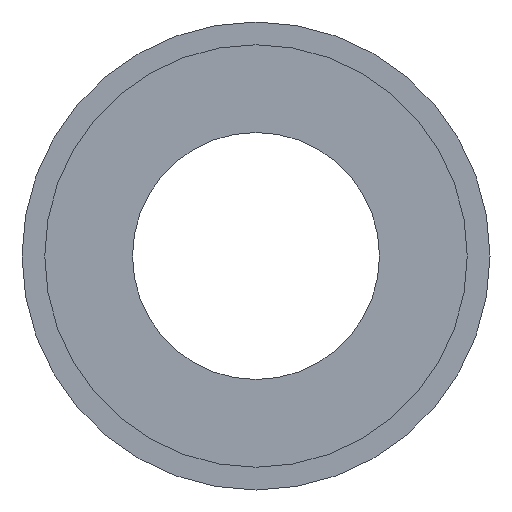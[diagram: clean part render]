
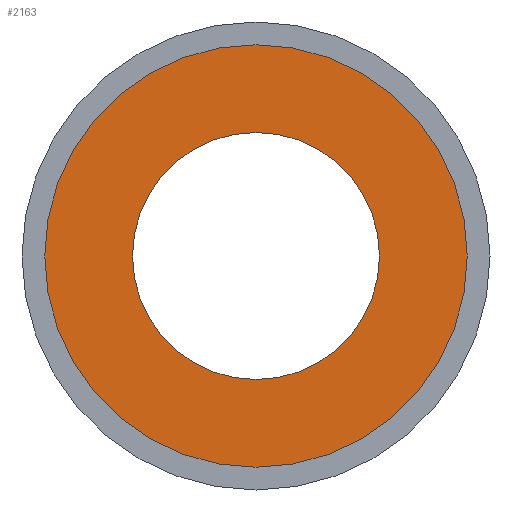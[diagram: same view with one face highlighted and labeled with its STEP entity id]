
A CAD part, front view. The second image highlights one B-rep face of the part: STEP entity #2163.
In plain terms, the highlighted planar face has unit normal (0, -1, 0).
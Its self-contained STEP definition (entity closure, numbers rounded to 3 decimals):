
#23 = CIRCLE ( 'NONE', #1369, 32.5 ) ;
#35 = ORIENTED_EDGE ( 'NONE', *, *, #2455, .T. ) ;
#69 = CARTESIAN_POINT ( 'NONE',  ( 0., -15., 0. ) ) ;
#96 = CARTESIAN_POINT ( 'NONE',  ( 0., -15., 0. ) ) ;
#134 = ORIENTED_EDGE ( 'NONE', *, *, #860, .T. ) ;
#282 = VERTEX_POINT ( 'NONE', #2083 ) ;
#469 = DIRECTION ( 'NONE',  ( 0., -1., 0. ) ) ;
#616 = AXIS2_PLACEMENT_3D ( 'NONE', #96, #1434, #647 ) ;
#633 = EDGE_CURVE ( 'NONE', #1029, #1094, #852, .T. ) ;
#647 = DIRECTION ( 'NONE',  ( 0., 0., -1. ) ) ;
#750 = CARTESIAN_POINT ( 'NONE',  ( 0., -15., 0. ) ) ;
#755 = AXIS2_PLACEMENT_3D ( 'NONE', #69, #469, #1010 ) ;
#852 = CIRCLE ( 'NONE', #1287, 19. ) ;
#860 = EDGE_CURVE ( 'NONE', #282, #1685, #23, .T. ) ;
#940 = DIRECTION ( 'NONE',  ( 0., 0., -1. ) ) ;
#1010 = DIRECTION ( 'NONE',  ( 0., 0., -1. ) ) ;
#1029 = VERTEX_POINT ( 'NONE', #2054 ) ;
#1094 = VERTEX_POINT ( 'NONE', #1751 ) ;
#1110 = FACE_OUTER_BOUND ( 'NONE', #1660, .T. ) ;
#1121 = ORIENTED_EDGE ( 'NONE', *, *, #1852, .F. ) ;
#1174 = CARTESIAN_POINT ( 'NONE',  ( 0., -15., 19. ) ) ;
#1283 = CARTESIAN_POINT ( 'NONE',  ( 0., -15., 0. ) ) ;
#1287 = AXIS2_PLACEMENT_3D ( 'NONE', #750, #1523, #940 ) ;
#1343 = CIRCLE ( 'NONE', #755, 19. ) ;
#1353 = CIRCLE ( 'NONE', #616, 32.5 ) ;
#1369 = AXIS2_PLACEMENT_3D ( 'NONE', #1283, #2419, #1835 ) ;
#1378 = DIRECTION ( 'NONE',  ( 0., 0., 1. ) ) ;
#1434 = DIRECTION ( 'NONE',  ( 0., -1., 0. ) ) ;
#1523 = DIRECTION ( 'NONE',  ( 0., -1., 0. ) ) ;
#1623 = FACE_BOUND ( 'NONE', #2345, .T. ) ;
#1660 = EDGE_LOOP ( 'NONE', ( #134, #35 ) ) ;
#1685 = VERTEX_POINT ( 'NONE', #1688 ) ;
#1688 = CARTESIAN_POINT ( 'NONE',  ( 0., -15., 32.5 ) ) ;
#1694 = ORIENTED_EDGE ( 'NONE', *, *, #633, .F. ) ;
#1751 = CARTESIAN_POINT ( 'NONE',  ( 0., -15., 19. ) ) ;
#1835 = DIRECTION ( 'NONE',  ( 0., 0., -1. ) ) ;
#1852 = EDGE_CURVE ( 'NONE', #1094, #1029, #1343, .T. ) ;
#2054 = CARTESIAN_POINT ( 'NONE',  ( 0., -15., -19. ) ) ;
#2083 = CARTESIAN_POINT ( 'NONE',  ( 0., -15., -32.5 ) ) ;
#2163 = ADVANCED_FACE ( 'NONE', ( #1623, #1110 ), #2315, .F. ) ;
#2315 = PLANE ( 'NONE',  #2317 ) ;
#2317 = AXIS2_PLACEMENT_3D ( 'NONE', #1174, #2323, #1378 ) ;
#2323 = DIRECTION ( 'NONE',  ( 0., 1., 0. ) ) ;
#2345 = EDGE_LOOP ( 'NONE', ( #1694, #1121 ) ) ;
#2419 = DIRECTION ( 'NONE',  ( 0., -1., 0. ) ) ;
#2455 = EDGE_CURVE ( 'NONE', #1685, #282, #1353, .T. ) ;
